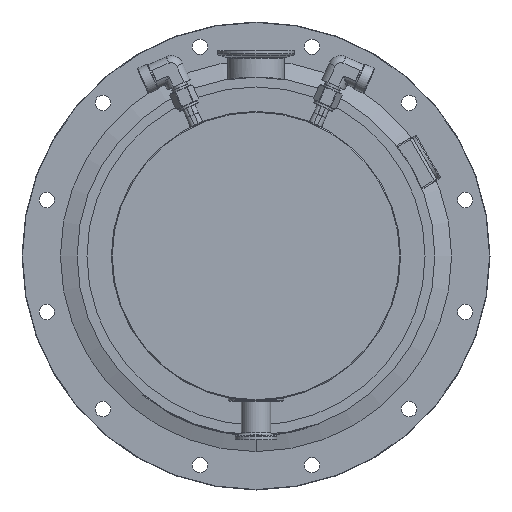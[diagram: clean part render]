
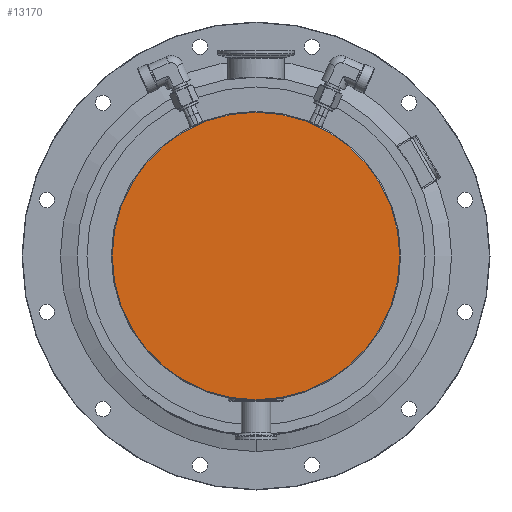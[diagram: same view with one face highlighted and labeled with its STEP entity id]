
A CAD part, front view. The second image highlights one B-rep face of the part: STEP entity #13170.
In plain terms, the highlighted planar face has unit normal (0, -1, 0).
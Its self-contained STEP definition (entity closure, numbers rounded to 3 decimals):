
#3422=CARTESIAN_POINT('',(0.,-7.7,0.));
#3423=DIRECTION('',(0.,-1.,0.));
#3424=DIRECTION('',(0.,0.,-1.));
#3425=AXIS2_PLACEMENT_3D('',#3422,#3423,#3424);
#3435=CARTESIAN_POINT('',(0.,-7.7,0.));
#3436=DIRECTION('',(0.,1.,0.));
#3437=DIRECTION('',(0.,0.,-1.));
#3438=AXIS2_PLACEMENT_3D('',#3435,#3436,#3437);
#7772=CARTESIAN_POINT('',(0.,-7.7,-102.9));
#7774=VERTEX_POINT('',#7772);
#7808=CARTESIAN_POINT('',(0.,-7.7,102.9));
#7810=VERTEX_POINT('',#7808);
#13161=CARTESIAN_POINT('',(0.,-7.7,0.));
#13162=DIRECTION('',(0.,-1.,0.));
#13163=DIRECTION('',(0.,0.,1.));
#13164=AXIS2_PLACEMENT_3D('',#13161,#13162,#13163);
#13165=PLANE('',#13164);
#13166=ORIENTED_EDGE('',*,*,#13156,.T.);
#13167=ORIENTED_EDGE('',*,*,#13140,.F.);
#13168=EDGE_LOOP('',(#13166,#13167));
#13169=FACE_OUTER_BOUND('',#13168,.F.);
#13170=ADVANCED_FACE('',(#13169),#13165,.T.);
#3426=CIRCLE('',#3425,102.9);
#3439=CIRCLE('',#3438,102.9);
#13140=EDGE_CURVE('',#7774,#7810,#3426,.T.);
#13156=EDGE_CURVE('',#7774,#7810,#3439,.T.);
